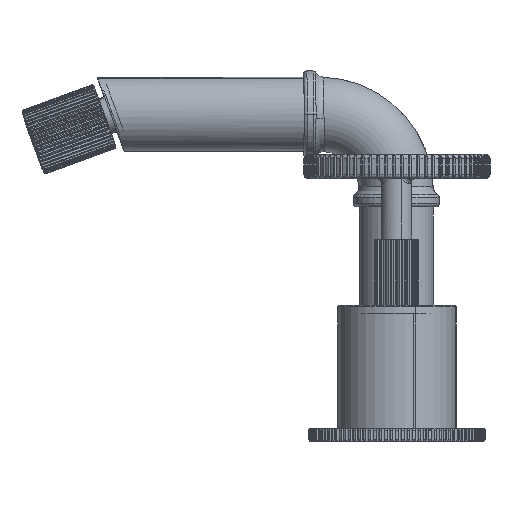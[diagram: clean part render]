
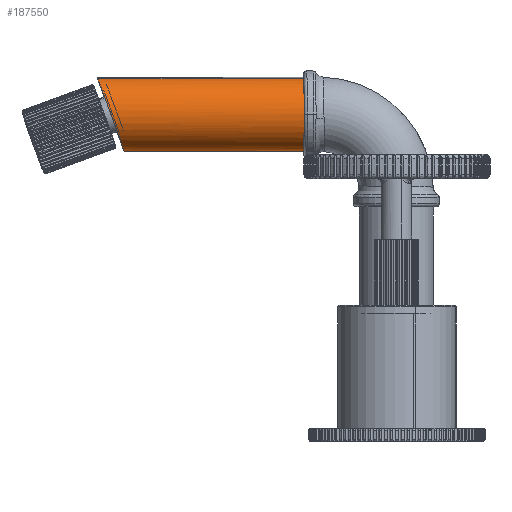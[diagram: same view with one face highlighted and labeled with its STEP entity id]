
A CAD part, front view. The second image highlights one B-rep face of the part: STEP entity #187550.
In plain terms, the highlighted cylindrical face has radius 12 mm (diameter 24 mm), a partial arc.
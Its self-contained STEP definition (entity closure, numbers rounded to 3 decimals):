
#15694 = DIRECTION ( 'NONE',  ( -1., -0.009, 0. ) ) ;
#16718 = VECTOR ( 'NONE', #129203, 1000. ) ;
#21742 = ORIENTED_EDGE ( 'NONE', *, *, #294073, .F. ) ;
#21917 = CARTESIAN_POINT ( 'NONE',  ( -98.249, -19.842, 139.402 ) ) ;
#27747 = CARTESIAN_POINT ( 'NONE',  ( -89.785, -16.021, 128. ) ) ;
#27895 = CARTESIAN_POINT ( 'NONE',  ( -89.785, -16.021, 128. ) ) ;
#30757 = VERTEX_POINT ( 'NONE', #94223 ) ;
#32730 = LINE ( 'NONE', #102396, #16718 ) ;
#40604 = ORIENTED_EDGE ( 'NONE', *, *, #265116, .F. ) ;
#47208 = LINE ( 'NONE', #21917, #257082 ) ;
#51952 = ORIENTED_EDGE ( 'NONE', *, *, #221632, .F. ) ;
#78468 = DIRECTION ( 'NONE',  ( 1., 0.009, 0. ) ) ;
#81450 = DIRECTION ( 'NONE',  ( 0.009, -1., 0. ) ) ;
#82550 = AXIS2_PLACEMENT_3D ( 'NONE', #27747, #296712, #81450 ) ;
#94223 = CARTESIAN_POINT ( 'NONE',  ( -89.75, -19.763, 139.402 ) ) ;
#98446 = DIRECTION ( 'NONE',  ( -1., -0.009, 0. ) ) ;
#102396 = CARTESIAN_POINT ( 'NONE',  ( -98.319, -12.358, 116.598 ) ) ;
#106458 = ORIENTED_EDGE ( 'NONE', *, *, #215351, .F. ) ;
#111183 =( BOUNDED_CURVE ( )  B_SPLINE_CURVE ( 3, ( #259221, #191045, #287620, #234006 ),
 .UNSPECIFIED., .F., .F. ) 
 B_SPLINE_CURVE_WITH_KNOTS ( ( 4, 4 ),
 ( 2.824, 5.966 ),
 .UNSPECIFIED. ) 
 CURVE ( )  GEOMETRIC_REPRESENTATION_ITEM ( )  RATIONAL_B_SPLINE_CURVE ( ( 1., 0.333, 0.333, 1. ) ) 
 REPRESENTATION_ITEM ( '' )  );
#129203 = DIRECTION ( 'NONE',  ( -1., -0.009, 0. ) ) ;
#130265 = VERTEX_POINT ( 'NONE', #186238 ) ;
#154990 = ORIENTED_EDGE ( 'NONE', *, *, #188290, .T. ) ;
#155067 = CARTESIAN_POINT ( 'NONE',  ( -89.82, -12.278, 116.598 ) ) ;
#161656 = CARTESIAN_POINT ( 'NONE',  ( -157.029, -20.391, 139.402 ) ) ;
#162979 = CIRCLE ( 'NONE', #243984, 12. ) ;
#169645 = DIRECTION ( 'NONE',  ( -0.003, 0.312, -0.95 ) ) ;
#178595 = CIRCLE ( 'NONE', #82550, 12. ) ;
#186238 = CARTESIAN_POINT ( 'NONE',  ( -148.8, -12.829, 116.598 ) ) ;
#187550 = ADVANCED_FACE ( 'NONE', ( #281070 ), #240970, .T. ) ;
#188290 = EDGE_CURVE ( 'NONE', #30757, #233689, #47208, .T. ) ;
#191045 = CARTESIAN_POINT ( 'NONE',  ( -145.863, -35.605, 109.114 ) ) ;
#215351 = EDGE_CURVE ( 'NONE', #130265, #233689, #111183, .T. ) ;
#221058 = DIRECTION ( 'NONE',  ( 0.009, -1., 0. ) ) ;
#221632 = EDGE_CURVE ( 'NONE', #305893, #274961, #178595, .T. ) ;
#233689 = VERTEX_POINT ( 'NONE', #161656 ) ;
#234006 = CARTESIAN_POINT ( 'NONE',  ( -157.029, -20.391, 139.402 ) ) ;
#240970 = CYLINDRICAL_SURFACE ( 'NONE', #287075, 12. ) ;
#243984 = AXIS2_PLACEMENT_3D ( 'NONE', #27895, #78468, #221058 ) ;
#257082 = VECTOR ( 'NONE', #15694, 1000. ) ;
#259221 = CARTESIAN_POINT ( 'NONE',  ( -148.8, -12.829, 116.598 ) ) ;
#265116 = EDGE_CURVE ( 'NONE', #30757, #305893, #162979, .T. ) ;
#270224 = EDGE_LOOP ( 'NONE', ( #40604, #154990, #106458, #21742, #51952 ) ) ;
#274961 = VERTEX_POINT ( 'NONE', #155067 ) ;
#281070 = FACE_OUTER_BOUND ( 'NONE', #270224, .T. ) ;
#287075 = AXIS2_PLACEMENT_3D ( 'NONE', #289952, #98446, #169645 ) ;
#287620 = CARTESIAN_POINT ( 'NONE',  ( -154.092, -43.167, 131.917 ) ) ;
#289952 = CARTESIAN_POINT ( 'NONE',  ( -98.284, -16.1, 128. ) ) ;
#294073 = EDGE_CURVE ( 'NONE', #274961, #130265, #32730, .T. ) ;
#296712 = DIRECTION ( 'NONE',  ( 1., 0.009, 0. ) ) ;
#298251 = CARTESIAN_POINT ( 'NONE',  ( -89.673, -28.02, 128. ) ) ;
#305893 = VERTEX_POINT ( 'NONE', #298251 ) ;
